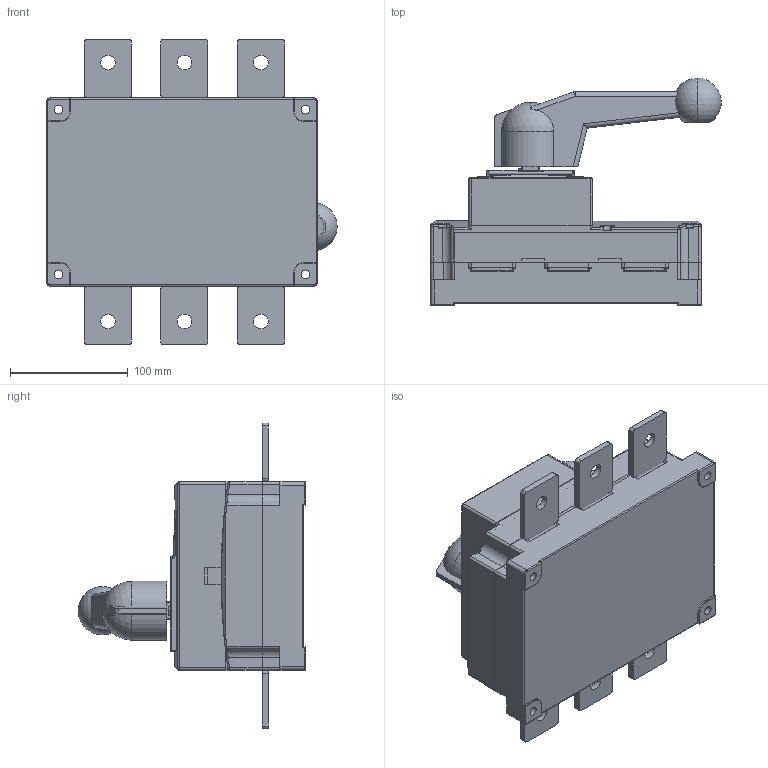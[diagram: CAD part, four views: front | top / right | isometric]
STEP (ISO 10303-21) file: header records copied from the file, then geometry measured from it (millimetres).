
FILE_DESCRIPTION((''),'2;1');
FILE_NAME('ASM0001_ASM','2024-03-18T',('zhuanghy'),(''),'CREO PARAMETRIC BY PTC INC, 2018070','CREO PARAMETRIC BY PTC INC, 2018070','');
FILE_SCHEMA(('AUTOMOTIVE_DESIGN { 1 0 10303 214 1 1 1 1 }'));
Length unit declared in the file: millimetre
Products named in the file (13): NH40-630BOCHA_97_1_1; ASM0004_ASM_3_ASM_ASM_1_1_ASM; NH40-315-3_ASM_ASM_1_1_ASM; NH40-315_630_202107__1_1; NH40-315-3_3P_201805_ASM_1_1_ASM; PRT0044; PRT0045; PRT0046; NH40-630JINGCHUTOU_65; ASM0004_ASM_4_ASM_ASM; NH40-630-3_ASM_ASM; NH40-630-3_3P_201805_ASM; ASM0001_ASM
Assembly tree (17 placements, depth 5):
  ASM0001_ASM
    NH40-315-3_3P_201805_ASM_1_1_ASM
      NH40-315-3_ASM_ASM_1_1_ASM
        ASM0004_ASM_3_ASM_ASM_1_1_ASM
          NH40-630BOCHA_97_1_1
      NH40-315_630_202107__1_1
    NH40-630-3_3P_201805_ASM
      NH40-630-3_ASM_ASM
        ASM0004_ASM_4_ASM_ASM
          PRT0044
          PRT0045
          PRT0046
          NH40-630JINGCHUTOU_65  x6
Bounding box: 246.93 x 193.5 x 260 mm (x, y, z)
Volume: 3821921 mm3; surface area: 424648.1 mm2
Topology: 11 solids, 11 shells, 935 faces, 2462 edges, 1555 vertices
Faces by surface type: plane 388, cylinder 373, bspline 83, torus 73, sphere 16, cone 2
Entity records: 32266 total; most frequent: CARTESIAN_POINT 12120, ORIENTED_EDGE 4212, DIRECTION 3995, EDGE_CURVE 2106, AXIS2_PLACEMENT_3D 1446, VERTEX_POINT 1325, VECTOR 1103, LINE 1103
